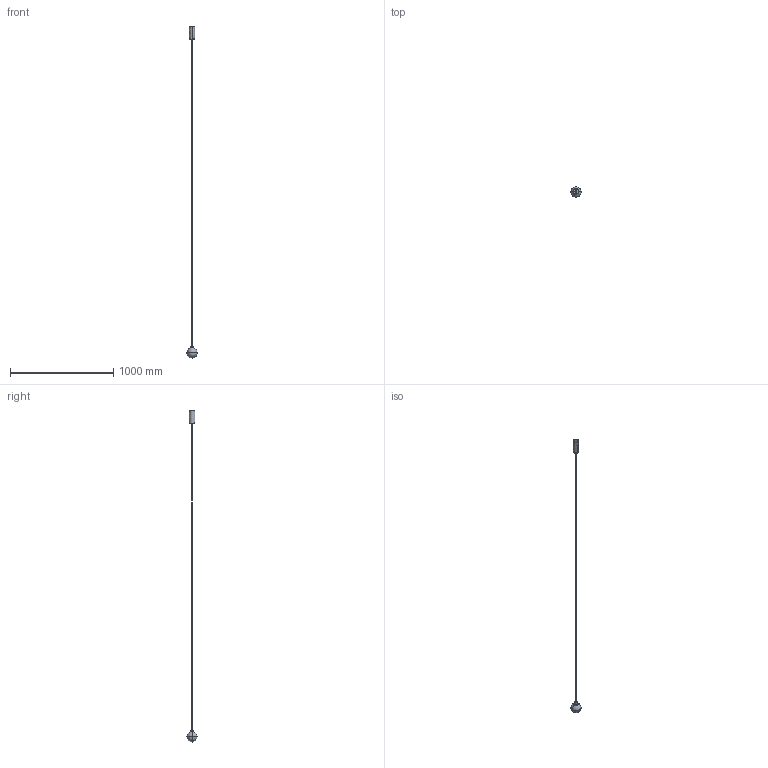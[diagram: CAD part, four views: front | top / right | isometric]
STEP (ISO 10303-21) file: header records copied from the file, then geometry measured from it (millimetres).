
FILE_DESCRIPTION(/* description */ (''),/* implementation_level */ '2;1');
FILE_NAME(/* name */ 'L115__~1',/* time_stamp */ '2024-07-02T17:38:37+02:00',/* author */ (''),/* organization */ (''),/* preprocessor_version */ 'ST-DEVELOPER v16.5',/* originating_system */ '',/* authorisation */ '');
FILE_SCHEMA (('AUTOMOTIVE_DESIGN'));
Length unit declared in the file: millimetre
Products named in the file (1): Document
Bounding box: 100 x 100 x 3222.16 mm (x, y, z)
Volume: 202117.5 mm3; surface area: 220545.1 mm2
Topology: 19 solids, 19 shells, 500 faces, 1192 edges, 724 vertices
Faces by surface type: bspline 340, plane 160
Entity records: 44655 total; most frequent: CARTESIAN_POINT 37583, ORIENTED_EDGE 2348, EDGE_CURVE 1174, VERTEX_POINT 724, B_SPLINE_CURVE_WITH_KNOTS 643, EDGE_LOOP 546, ADVANCED_FACE 500, FACE_OUTER_BOUND 500
